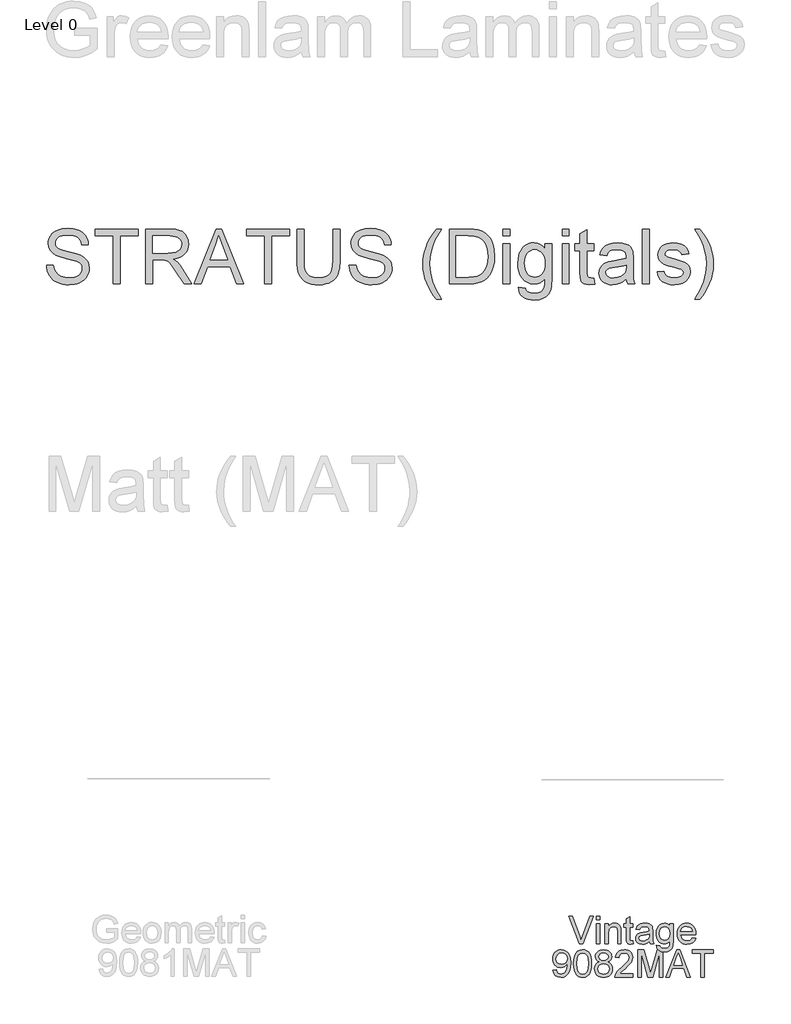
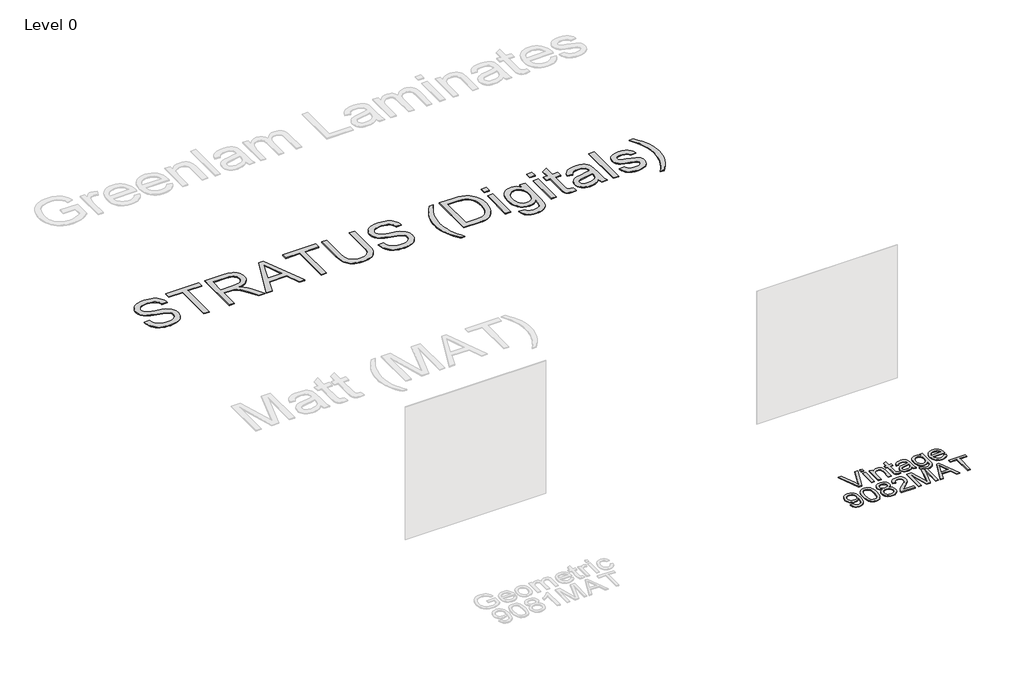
# One storey, part 2 of 3: 2 proxies.
"""IFC4 building model written with IfcOpenShell, lengths in millimetres."""

import ifcopenshell
import ifcopenshell.guid

model = None  # the IFC model being written
_history = None  # IfcOwnerHistory: only IFC2X3 demands one
_inside = {}  # id of a spatial element -> (the spatial element, [elements in it])
_under = {}  # id of a project, library or spatial element -> (it, [spatial elements below it])
_declared = {}  # id of a project -> (the project, [libraries it declares])
_typed = {}  # id of a type object -> (the type object, [elements of that type])
_made_of = {}  # id of a material, layer set ... -> (it, [elements and type objects made of it])


def new_model(schema):
    """Start an empty IFC model of exactly this schema.

    Asked for "IFC4X3", IfcOpenShell would pick the latest addendum, in which some entities
    have other attributes; the version numbers below select the first issue.
    IFC2X3 requires an IfcOwnerHistory on every rooted entity: one is made here for all.
    """
    global model, _history
    if schema == "IFC4X3":
        model = ifcopenshell.file(schema_version=(4, 3, 0, 0))
    else:
        model = ifcopenshell.file(schema=schema)
    _inside.clear()
    _under.clear()
    _declared.clear()
    _typed.clear()
    _made_of.clear()
    _history = None
    if model.schema == "IFC2X3":
        org = make("IfcOrganization", Name="unknown")
        user = make(
            "IfcPersonAndOrganization",
            ThePerson=make("IfcPerson", FamilyName="unknown"),
            TheOrganization=org,
        )
        app = make(
            "IfcApplication",
            ApplicationDeveloper=org,
            Version="unknown",
            ApplicationFullName="unknown",
            ApplicationIdentifier="unknown",
        )
        _history = make(
            "IfcOwnerHistory",
            OwningUser=user,
            OwningApplication=app,
            ChangeAction="ADDED",
            CreationDate=0,
        )
    return model


def make(cls, **values):
    """One entity of the class cls with the attributes given. An attribute that is None is left unset."""
    return model.create_entity(
        cls, **{name: value for name, value in values.items() if value is not None}
    )


def rooted(cls, **values):
    """An entity with a GlobalId (a new one), such as an element, a storey or a relation."""
    return make(cls, GlobalId=ifcopenshell.guid.new(), OwnerHistory=_history, **values)


def si_unit(unit_type, name, prefix=None):
    """IfcSIUnit, for example si_unit("LENGTHUNIT", "METRE", prefix="MILLI")."""
    return make("IfcSIUnit", UnitType=unit_type, Prefix=prefix, Name=name)


def assignment(units):
    """IfcUnitAssignment: the units of a project."""
    return None if units is None else make("IfcUnitAssignment", Units=units)


def point(xyz):
    """IfcCartesianPoint."""
    return None if xyz is None else make("IfcCartesianPoint", Coordinates=xyz)


def direction(xyz):
    """IfcDirection."""
    return None if xyz is None else make("IfcDirection", DirectionRatios=xyz)


def frame(location, z_axis=None, x_axis=None):
    """IfcAxis2Placement3D, a coordinate frame: its origin and axes. An axis left out is left unset."""
    return make(
        "IfcAxis2Placement3D",
        Location=point(location),
        Axis=direction(z_axis),
        RefDirection=direction(x_axis),
    )


def origin():
    """The frame at (0, 0, 0) with its axes left unset."""
    return frame((0.0, 0.0, 0.0))


def origin_with_axes():
    """The frame at (0, 0, 0) with the z axis (0, 0, 1) and the x axis (1, 0, 0) written out."""
    return frame((0.0, 0.0, 0.0), z_axis=(0.0, 0.0, 1.0), x_axis=(1.0, 0.0, 0.0))


def place(relative_to, where):
    """IfcLocalPlacement: puts the frame where relative to a parent placement (None: the world)."""
    return make(
        "IfcLocalPlacement", PlacementRelTo=relative_to, RelativePlacement=where
    )


def context(
    kind, dimensions, precision=None, world=None, true_north=None, identifier=None
):
    """IfcGeometricRepresentationContext, for example the 3D "Model" context."""
    return make(
        "IfcGeometricRepresentationContext",
        ContextIdentifier=identifier,
        ContextType=kind,
        CoordinateSpaceDimension=dimensions,
        Precision=precision,
        WorldCoordinateSystem=world,
        TrueNorth=true_north,
    )


def project(units=None, contexts=None):
    """IfcProject with its units and contexts."""
    return rooted(
        "IfcProject",
        Name="project",
        RepresentationContexts=contexts,
        UnitsInContext=assignment(units),
    )


def spatial(cls, under=None, at=None, **own):
    """A site, building, storey or space (cls), placed at a placement, below another one or the project."""
    s = rooted(cls, ObjectPlacement=at, **own)
    if under is not None:
        _under.setdefault(under.id(), (under, []))[1].append(s)
    return s


def polyline(points):
    """IfcPolyline through the points."""
    return make("IfcPolyline", Points=[point(p) for p in points])


def outline(outer, holes=None, kind="AREA"):
    """IfcArbitraryClosedProfileDef: a profile drawn as a closed curve; with holes, ...WithVoids."""
    if holes is None:
        return make("IfcArbitraryClosedProfileDef", ProfileType=kind, OuterCurve=outer)
    return make(
        "IfcArbitraryProfileDefWithVoids",
        ProfileType=kind,
        OuterCurve=outer,
        InnerCurves=holes,
    )


def extrude(swept, where, along, depth):
    """IfcExtrudedAreaSolid: the profile swept, set in the frame where, extruded along a direction by depth."""
    return make(
        "IfcExtrudedAreaSolid",
        SweptArea=swept,
        Position=where,
        ExtrudedDirection=direction(along),
        Depth=depth,
    )


def shape(context_of_items, identifier, shape_type, items):
    """IfcShapeRepresentation: the items that make up one representation, for example the "Body"."""
    return make(
        "IfcShapeRepresentation",
        ContextOfItems=context_of_items,
        RepresentationIdentifier=identifier,
        RepresentationType=shape_type,
        Items=items,
    )


def made_of(thing, what):
    """Note that an element or type object is made of a material, layer set ...; save() writes the relation."""
    if what is not None:
        _made_of.setdefault(what.id(), (what, []))[1].append(thing)
    return thing


def element(
    cls,
    number,
    at=None,
    inside=None,
    cuts=None,
    type_object=None,
    material=None,
    context=None,
    identifier="Body",
    shape_type=None,
    held_by="IfcProductDefinitionShape",
    body=None,
    shapes=None,
    **own,
):
    """One element of the class cls, such as IfcWall. Its Tag is "e" and its number.

    at: its placement. inside: the storey or other place that contains it. cuts: it is an
    opening in that element (IfcRelVoidsElement). A single representation is given by context,
    identifier, shape_type and body (its items); several are given by shapes. held_by: the class
    of the entity that holds the representations. save() writes the other relations.
    """
    e = rooted(cls, Tag="e%d" % number, ObjectPlacement=at, **own)
    if body is not None:
        shapes = [shape(context, identifier, shape_type, body)]
    if shapes is not None:
        e.Representation = make(held_by, Representations=shapes)
    if inside is not None:
        _inside.setdefault(inside.id(), (inside, []))[1].append(e)
    if cuts is not None:
        rooted(
            "IfcRelVoidsElement", RelatingBuildingElement=cuts, RelatedOpeningElement=e
        )
    if type_object is not None:
        _typed.setdefault(type_object.id(), (type_object, []))[1].append(e)
    return made_of(e, material)


def aggregate(whole, parts):
    """IfcRelAggregates: a whole, such as a stair, and the parts it consists of."""
    return rooted("IfcRelAggregates", RelatingObject=whole, RelatedObjects=parts)


def save(model, path):
    """Write the relations noted so far, then the file.

    IfcRelAggregates (storeys below a building ...), IfcRelContainedInSpatialStructure (elements
    in a storey), IfcRelDefinesByType, IfcRelAssociatesMaterial and IfcRelDeclares: one each for
    every whole, place, type object, material and project.
    """
    for whole, parts in _under.values():
        aggregate(whole, parts)
    for where, things in _inside.values():
        rooted(
            "IfcRelContainedInSpatialStructure",
            RelatedElements=things,
            RelatingStructure=where,
        )
    for kind, things in _typed.values():
        rooted("IfcRelDefinesByType", RelatedObjects=things, RelatingType=kind)
    for what, things in _made_of.values():
        rooted("IfcRelAssociatesMaterial", RelatedObjects=things, RelatingMaterial=what)
    for by, libraries in _declared.values():
        rooted("IfcRelDeclares", RelatingContext=by, RelatedDefinitions=libraries)
    model.write(path)


model = new_model("IFC4")

# Units and contexts
model_context = context("Model", 3, world=origin())
ifc_project = project(units=[si_unit("LENGTHUNIT", "METRE", prefix="MILLI")], contexts=[model_context])

# Site, building, storey
site = spatial("IfcSite", under=ifc_project)
building = spatial("IfcBuilding", under=site)
storey = spatial("IfcBuildingStorey", under=building, Name="Level 0", Elevation=0.0)

# Proxies
placement = place(None, origin())
element("IfcBuildingElementProxy", 1, Name="300mm Arial", ObjectType="300mm Arial", at=placement, inside=storey, context=model_context, shape_type="SweptSolid", body=[
    extrude(outline(polyline([(-5035.0018174, -7002.860494), (-5154.9313479, -6701.4915635), (-5114.6114812, -6701.4915635), (-5034.3396299, -6918.6155171), (-5018.0792457, -6967.5438224), (-5002.0395907, -6918.6155171), (-4921.5470101, -6701.4915635), (-4881.2271435, -6701.4915635), (-4996.0799024, -7002.860494), (-5035.0018174, -7002.860494)])), origin_with_axes(), (0.0, 0.0, 1.0), 10.0),
    extrude(outline(polyline([(-4850.9136671, -7002.860494), (-4850.9136671, -6781.5426857), (-4813.2425508, -6781.5426857), (-4813.2425508, -7002.860494), (-4850.9136671, -7002.860494)])), origin_with_axes(), (0.0, 0.0, 1.0), 10.0),
    extrude(outline(polyline([(-4850.9136671, -6739.1626798), (-4850.9136671, -6701.4915635), (-4813.2425508, -6701.4915635), (-4813.2425508, -6739.1626798), (-4850.9136671, -6739.1626798)])), origin_with_axes(), (0.0, 0.0, 1.0), 10.0),
    extrude(outline(polyline([(-4756.7358763, -7002.860494), (-4756.7358763, -6781.5426857), (-4719.06476, -6781.5426857), (-4719.06476, -6812.4447733), (-4705.977358, -6796.8649708), (-4690.2595998, -6785.7365404), (-4671.9114853, -6779.0594822), (-4650.9330145, -6776.8337961), (-4632.3641708, -6778.6272209), (-4615.3588255, -6784.0074951), (-4601.1769746, -6792.303234), (-4591.0786139, -6802.8430532), (-4579.7846366, -6830.5445674), (-4577.7980738, -6866.964885), (-4577.7980738, -7002.860494), (-4615.4691901, -7002.860494), (-4615.4691901, -6872.0416565), (-4619.8101977, -6838.7115477), (-4625.8158713, -6828.7879309), (-4635.1508769, -6821.0900002), (-4647.1162388, -6816.1511844), (-4661.0129811, -6814.5049125), (-4683.0767038, -6818.2021265), (-4701.8846708, -6829.2937687), (-4709.4009598, -6838.3482643), (-4714.7697377, -6850.7228949), (-4719.06476, -6885.4325611), (-4719.06476, -7002.860494), (-4756.7358763, -7002.860494)])), origin_with_axes(), (0.0, 0.0, 1.0), 10.0),
    extrude(outline(polyline([(-4445.9491668, -6971.4433716), (-4441.2402772, -7003.96414), (-4469.4200381, -7007.5693835), (-4487.5014381, -7006.005885), (-4500.9843132, -7001.3153896), (-4510.5124569, -6994.0865084), (-4516.7296626, -6984.9078526), (-4520.1509652, -6969.1441091), (-4521.2913994, -6942.1599648), (-4521.2913994, -6819.213802), (-4549.5447366, -6819.213802), (-4549.5447366, -6781.5426857), (-4521.2913994, -6781.5426857), (-4521.2913994, -6727.758338), (-4483.6202831, -6705.6118419), (-4483.6202831, -6781.5426857), (-4445.9491668, -6781.5426857), (-4445.9491668, -6819.213802), (-4483.6202831, -6819.213802), (-4483.6202831, -6941.0563188), (-4481.6337203, -6960.4804881), (-4475.1957854, -6967.3598814), (-4462.3567038, -6969.8982672), (-4445.9491668, -6971.4433716)])), origin_with_axes(), (0.0, 0.0, 1.0), 10.0),
    extrude(outline(polyline([(-4267.0113643, -6974.6071568), (-4285.0099909, -6990.0398064), (-4303.5420464, -7000.1381672), (-4323.0305951, -7005.7115794), (-4343.8987013, -7007.5693835), (-4375.380203, -7003.0996173), (-4398.602754, -6989.6903186), (-4412.9225607, -6969.3280501), (-4417.6958295, -6943.9993748), (-4415.8932078, -6928.3827841), (-4410.4853424, -6914.2009331), (-4402.1436182, -6902.0608273), (-4391.5394197, -6892.5694718), (-4365.1622806, -6880.2086368), (-4332.5679359, -6874.5432541), (-4294.050691, -6868.5835657), (-4267.2320935, -6861.5938078), (-4267.0113643, -6853.2060983), (-4269.6049324, -6836.3938912), (-4277.3856366, -6825.3942195), (-4294.786455, -6817.2272392), (-4319.0298784, -6814.5049125), (-4341.4706801, -6816.3167313), (-4357.1424531, -6821.7521878), (-4367.8294251, -6831.8045633), (-4375.3158237, -6847.4671392), (-4412.98694, -6842.7582497), (-4406.4478375, -6822.156858), (-4396.6897676, -6805.9700502), (-4382.8022223, -6793.590821), (-4363.8746936, -6784.4121652), (-4340.7257191, -6778.7283884), (-4314.1738361, -6776.8337961), (-4288.707205, -6778.5076592), (-4268.5196805, -6783.5292485), (-4253.2985629, -6791.0800264), (-4242.7311526, -6800.3414556), (-4235.7230006, -6811.7917827), (-4231.179658, -6825.9092543), (-4229.340248, -6858.8714811), (-4229.340248, -6905.7396473), (-4227.4272616, -6971.1858542), (-4219.9224689, -7002.860494), (-4257.5935852, -7002.860494), (-4267.0113643, -6974.6071568)]), holes=[polyline([(-4267.0113643, -6899.2649241), (-4327.7854699, -6910.8164188), (-4360.1958737, -6916.9232599), (-4374.8743653, -6926.8560738), (-4380.0247132, -6941.3506244), (-4377.219613, -6952.5526311), (-4368.8043124, -6961.7312869), (-4354.9627523, -6967.8565221), (-4335.8788738, -6969.8982672), (-4315.6453641, -6967.64499), (-4297.7662991, -6960.8851583), (-4283.2717485, -6950.9247533), (-4273.1917818, -6939.069756), (-4268.7220156, -6926.8560738), (-4267.2320935, -6909.933502), (-4267.0113643, -6899.2649241)])]), origin_with_axes(), (0.0, 0.0, 1.0), 10.0),
    extrude(outline(polyline([(-4186.9602422, -7021.6960521), (-4149.2891259, -7026.4049417), (-4145.1320593, -7038.1771655), (-4137.0754436, -7046.2705694), (-4121.2381237, -7052.5613515), (-4100.5079733, -7054.6582789), (-4078.3982654, -7052.28544), (-4061.9539402, -7045.1669234), (-4050.5495984, -7033.7625816), (-4043.5598404, -7018.532267), (-4040.9846665, -6974.6071568), (-4053.5202455, -6986.9679918), (-4067.5089583, -6995.7971597), (-4082.9508051, -7001.0946604), (-4099.8457857, -7002.860494), (-4120.5000605, -7000.8049533), (-4138.6849273, -6994.6383314), (-4154.4003863, -6984.3606281), (-4167.6464374, -6969.9718436), (-4178.1563662, -6952.708981), (-4185.6634581, -6933.8090435), (-4190.1677133, -6913.2720311), (-4191.6691317, -6891.0979438), (-4188.9743961, -6860.6832999), (-4180.8901892, -6832.7150712), (-4167.7016197, -6809.0142737), (-4149.6937961, -6791.4019232), (-4127.4829206, -6780.4758279), (-4101.6851957, -6776.8337961), (-4084.0682466, -6778.8939353), (-4068.0791754, -6785.0743528), (-4053.717982, -6795.3750487), (-4040.9846665, -6809.7960229), (-4040.9846665, -6781.5426857), (-4003.3135502, -6781.5426857), (-4003.3135502, -6972.620594), (-4005.8887241, -7016.7388422), (-4013.614246, -7045.7923228), (-4026.9223772, -7065.0601423), (-4046.245379, -7079.8214074), (-4071.1601871, -7089.2023982), (-4101.2437373, -7092.3293952), (-4136.2936944, -7087.9240083), (-4163.8940411, -7074.7078476), (-4174.2890067, -7064.7865301), (-4181.5983621, -7052.644125), (-4185.8221072, -7038.2806323), (-4186.9602422, -7021.6960521)]), holes=[polyline([(-4153.9980154, -6888.5227699), (-4149.9789046, -6923.0760863), (-4137.9215722, -6946.8320661), (-4119.7941869, -6960.6000498), (-4097.5649173, -6965.1893777), (-4075.5011947, -6960.6276409), (-4057.2818389, -6946.9424307), (-4045.0589596, -6923.4899535), (-4040.9846665, -6889.6264159), (-4045.1785212, -6856.9676917), (-4057.7600855, -6833.4508352), (-4076.2461557, -6819.2413931), (-4098.1535285, -6814.5049125), (-4119.6654282, -6819.1678167), (-4137.700843, -6833.1565296), (-4149.9237223, -6856.3238983), (-4153.9980154, -6888.5227699)])]), origin_with_axes(), (0.0, 0.0, 1.0), 10.0),
    extrude(outline(polyline([(-3791.8549793, -6936.9360404), (-3754.919627, -6941.64493), (-3768.2277582, -6969.4752029), (-3789.4637464, -6990.2789297), (-3818.149345, -7003.2467701), (-3853.8063073, -7007.5693835), (-3877.1806096, -7005.7046817), (-3898.0073291, -7000.1105761), (-3916.2864657, -6990.7870668), (-3932.0180195, -6977.7341537), (-3944.6685616, -6961.3151204), (-3953.7046631, -6941.8932503), (-3959.126324, -6919.4685435), (-3960.9335443, -6894.0409998), (-3959.1079299, -6867.7512327), (-3953.6310867, -6844.5792656), (-3944.5030147, -6824.5250983), (-3931.7237139, -6807.5887309), (-3916.0335468, -6794.133447), (-3898.172876, -6784.5225298), (-3878.1417013, -6778.7559796), (-3855.9400229, -6776.8337961), (-3834.4534151, -6778.751381), (-3815.022348, -6784.5041357), (-3797.6468215, -6794.0920602), (-3782.3268357, -6807.5151545), (-3769.8211471, -6824.4147337), (-3760.8885124, -6844.4321128), (-3755.5289316, -6867.5672917), (-3753.7424046, -6893.8202706), (-3753.9631338, -6903.9738137), (-3923.262428, -6903.9738137), (-3916.7417197, -6932.1719686), (-3901.5941785, -6952.902119), (-3879.7327909, -6965.6492302), (-3853.0705433, -6969.8982672), (-3833.0209746, -6967.9300985), (-3816.135191, -6962.0255925), (-3802.4131926, -6951.8168672), (-3791.8549793, -6936.9360404)]), holes=[polyline([(-3923.262428, -6866.3026974), (-3791.413521, -6866.3026974), (-3796.5086866, -6846.4002814), (-3806.4966828, -6832.1632482), (-3828.4592379, -6818.9194964), (-3856.0871757, -6814.5049125), (-3881.4802304, -6818.0273826), (-3902.4770953, -6828.5947929), (-3917.0728135, -6845.0667092), (-3923.262428, -6866.3026974)])]), origin_with_axes(), (0.0, 0.0, 1.0), 10.0),
    extrude(outline(polyline([(-5326.5115104, -7293.4427149), (-5288.8403941, -7288.7338254), (-5282.4024592, -7310.1169663), (-5271.9178223, -7324.6758963), (-5257.6440009, -7333.0360146), (-5239.8385124, -7335.8227207), (-5223.8632367, -7334.029296), (-5209.341095, -7328.6490218), (-5197.2745655, -7320.2705094), (-5188.6661268, -7309.4823699), (-5176.34208, -7276.7408723), (-5170.8974265, -7233.0364913), (-5171.1181557, -7225.6788514), (-5184.1687694, -7241.6081418), (-5201.2476911, -7254.2264942), (-5221.1225159, -7262.4486568), (-5242.5608391, -7265.1893777), (-5260.4559989, -7263.5155146), (-5276.9118204, -7258.4939254), (-5291.9283036, -7250.12461), (-5305.5054485, -7238.4075684), (-5316.7557398, -7223.9544045), (-5324.7916621, -7207.3767221), (-5329.6132155, -7188.6745212), (-5331.2204, -7167.8478018), (-5329.5350406, -7146.326705), (-5324.4789624, -7127.0129003), (-5316.0521654, -7109.9063875), (-5304.2546497, -7095.0071667), (-5289.9187482, -7082.9360387), (-5273.876794, -7074.3138045), (-5256.128787, -7069.1404639), (-5236.6747272, -7067.4160171), (-5208.5777398, -7071.3523544), (-5183.0007441, -7083.1613665), (-5161.6084061, -7102.254442), (-5146.0653918, -7128.0429699), (-5136.6016275, -7163.6907352), (-5133.4470394, -7212.3615232), (-5136.5924304, -7263.96617), (-5146.0286036, -7303.8537754), (-5161.6727854, -7333.8269609), (-5183.4422025, -7355.6883485), (-5210.3987557, -7369.0424649), (-5241.6043459, -7373.4938371), (-5273.8124146, -7368.2423216), (-5299.508972, -7352.4877751), (-5317.4800074, -7327.2234791), (-5326.5115104, -7293.4427149)]), holes=[polyline([(-5171.1181557, -7166.964885), (-5175.1832517, -7141.4338745), (-5187.3785398, -7121.788976), (-5206.3060685, -7109.262594), (-5230.5678861, -7105.0871334), (-5255.7310146, -7109.5844908), (-5275.8909479, -7123.0765629), (-5289.1346997, -7143.7239399), (-5293.5492837, -7169.6872117), (-5289.373823, -7192.964945), (-5276.8474411, -7211.4418182), (-5257.1841484, -7223.4991506), (-5231.5979557, -7227.5182614), (-5207.5292761, -7223.4991506), (-5188.151092, -7211.4418182), (-5175.3763898, -7192.2843633), (-5171.1181557, -7166.964885)])]), origin_with_axes(), (0.0, 0.0, 1.0), 10.0),
    extrude(outline(polyline([(-5100.4848126, -7220.5285035), (-5097.7165006, -7172.2899768), (-5089.4115645, -7133.8187172), (-5075.6527779, -7104.5261133), (-5056.5229142, -7083.8235541), (-5031.8840175, -7071.5179013), (-5001.5981323, -7067.4160171), (-4978.3847784, -7069.8440382), (-4957.5994457, -7077.1281017), (-4940.2170214, -7088.983099), (-4927.2123929, -7105.1239216), (-4917.3899436, -7125.4126136), (-4909.5540571, -7149.7112194), (-4904.4221033, -7180.5673217), (-4902.711452, -7220.5285035), (-4905.4521728, -7268.4911186), (-4913.6743354, -7306.8704077), (-4927.3503486, -7336.1906027), (-4946.4526212, -7356.9759355), (-4971.1467001, -7369.3643617), (-5001.5981323, -7373.4938371), (-5022.3466768, -7371.7004123), (-5040.7407766, -7366.3201381), (-5056.7804316, -7357.3530145), (-5070.4656418, -7344.7990414), (-5083.599029, -7322.1053209), (-5092.9800199, -7293.828991), (-5098.6086144, -7259.9700519), (-5100.4848126, -7220.5285035)]), holes=[polyline([(-5062.8136963, -7220.4549271), (-5058.3991123, -7279.7115194), (-5052.8808824, -7299.9795181), (-5045.1553605, -7314.0073184), (-5025.4368856, -7330.3688702), (-5001.5981323, -7335.8227207), (-4977.759379, -7330.3504761), (-4958.0409041, -7313.933742), (-4950.3153822, -7299.8829491), (-4944.7971522, -7279.6195489), (-4940.3825683, -7220.4549271), (-4944.6499994, -7162.5319069), (-4949.9842884, -7142.3305869), (-4957.4522929, -7127.9693935), (-4977.1339796, -7110.8076984), (-5002.0395907, -7105.0871334), (-5025.6208266, -7110.1271167), (-5044.5667493, -7125.2470667), (-5052.5497886, -7140.8820515), (-5058.2519595, -7161.9616898), (-5062.8136963, -7220.4549271)])]), origin_with_axes(), (0.0, 0.0, 1.0), 10.0),
    extrude(outline(polyline([(-4814.8612315, -7202.7965913), (-4835.0303619, -7192.8637774), (-4849.1846217, -7179.3992964), (-4857.54474, -7162.6790597), (-4860.3314461, -7142.9789789), (-4858.8139329, -7127.6153071), (-4854.2613932, -7113.5300252), (-4846.6738271, -7100.7231332), (-4836.0512345, -7089.1946312), (-4822.9040517, -7079.6664875), (-4807.7427149, -7072.8606706), (-4771.3775797, -7067.4160171), (-4734.7917153, -7072.9894293), (-4719.4648317, -7079.9561946), (-4706.1153138, -7089.709666), (-4695.2995831, -7101.4634957), (-4687.5740612, -7114.4313361), (-4682.9387481, -7128.613187), (-4681.3936437, -7144.0090485), (-4684.1435616, -7163.0745329), (-4692.3933153, -7179.509661), (-4706.2348754, -7192.8913686), (-4725.7602123, -7202.7965913), (-4702.5744496, -7214.7435591), (-4685.697863, -7232.3375155), (-4675.4063642, -7254.732332), (-4671.9758646, -7281.0818799), (-4673.6773188, -7299.8714528), (-4678.7816815, -7317.0975272), (-4687.2889527, -7332.7601031), (-4699.1991322, -7346.8591806), (-4713.8868209, -7358.5118428), (-4730.7266192, -7366.8351729), (-4749.7185272, -7371.829171), (-4770.8625449, -7373.4938371), (-4792.0065626, -7371.8222732), (-4810.9984706, -7366.8075818), (-4827.8382689, -7358.4497627), (-4842.5259576, -7346.748816), (-4854.4361372, -7332.5508703), (-4862.9434083, -7316.702054), (-4868.047771, -7299.2023674), (-4869.7492252, -7280.0518103), (-4866.1807699, -7252.6813898), (-4855.4754038, -7230.1670117), (-4838.18495, -7213.2812282), (-4814.8612315, -7202.7965913)]), holes=[polyline([(-4822.6603298, -7144.0826249), (-4819.3218007, -7160.52695), (-4809.3062134, -7173.6603373), (-4792.9078735, -7182.268776), (-4770.4210865, -7185.1382555), (-4748.4585314, -7182.2871701), (-4732.3085118, -7173.7339137), (-4722.3756979, -7161.0419848), (-4719.06476, -7145.774882), (-4722.4860625, -7129.9283651), (-4732.7499702, -7116.822569), (-4749.120719, -7108.0209923), (-4770.8625449, -7105.0871334), (-4792.7423266, -7107.9566129), (-4809.0854842, -7116.5650516), (-4819.2666184, -7129.1834041), (-4822.6603298, -7144.0826249)]), polyline([(-4832.0781089, -7278.7274351), (-4825.7873268, -7307.0911369), (-4817.0777206, -7319.2588339), (-4803.5304661, -7328.317928), (-4787.3068701, -7333.9465226), (-4770.5682393, -7335.8227207), (-4744.9268642, -7331.8771864), (-4725.6866359, -7320.0405832), (-4713.6568947, -7302.1155329), (-4709.6469809, -7279.9046575), (-4713.7856534, -7257.316703), (-4726.2016707, -7238.9961796), (-4745.8833574, -7226.8560738), (-4771.8190381, -7222.8093718), (-4797.1017282, -7226.8008915), (-4816.1488185, -7238.7754504), (-4828.0957863, -7256.7464859), (-4832.0781089, -7278.7274351)])]), origin_with_axes(), (0.0, 0.0, 1.0), 10.0),
    extrude(outline(polyline([(-4445.9491668, -7331.1138312), (-4445.9491668, -7368.7849475), (-4643.7225274, -7368.7849475), (-4639.6758254, -7342.8124787), (-4630.3868051, -7322.5145896), (-4616.7935653, -7302.8237058), (-4597.1302727, -7282.213117), (-4569.6310935, -7259.156113), (-4528.9801331, -7223.0484951), (-4504.5895568, -7196.3954446), (-4492.3942687, -7174.7639833), (-4488.3291726, -7153.7211331), (-4492.1643424, -7134.8579838), (-4503.6698518, -7119.1770138), (-4521.3557787, -7108.6096035), (-4543.7322011, -7105.0871334), (-4567.2306635, -7108.52683), (-4585.4868075, -7118.84592), (-4597.2682284, -7135.2350629), (-4601.3425215, -7156.8849183), (-4639.0136378, -7152.1760288), (-4629.8809673, -7115.7373171), (-4621.3346087, -7101.2013798), (-4610.1349012, -7089.1210548), (-4596.5393622, -7079.6251008), (-4580.8055092, -7072.8422765), (-4542.9228607, -7067.4160171), (-4522.7330369, -7068.9243332), (-4504.7643007, -7073.4492818), (-4489.0166521, -7080.9908627), (-4475.490091, -7091.549076), (-4464.6260758, -7104.3421723), (-4456.866065, -7118.5884026), (-4452.2100585, -7134.2877667), (-4450.6580563, -7151.4402648), (-4452.3319194, -7169.4572855), (-4457.3535086, -7187.1616065), (-4466.26545, -7205.1694302), (-4479.6103693, -7224.0969588), (-4500.8831457, -7246.6941104), (-4533.578658, -7275.7108027), (-4576.9151571, -7311.9471793), (-4593.9113052, -7331.1138312), (-4445.9491668, -7331.1138312)])), origin_with_axes(), (0.0, 0.0, 1.0), 10.0),
    extrude(outline(polyline([(-4394.1513818, -7368.7849475), (-4394.1513818, -7067.4160171), (-4329.3305743, -7067.4160171), (-4267.6735519, -7279.8310811), (-4255.2391405, -7324.1976497), (-4241.7746594, -7276.1522611), (-4181.1477066, -7067.4160171), (-4116.3268991, -7067.4160171), (-4116.3268991, -7368.7849475), (-4153.9980154, -7368.7849475), (-4153.9980154, -7105.0871334), (-4229.70813, -7368.7849475), (-4280.7701509, -7368.7849475), (-4356.4802655, -7105.0871334), (-4356.4802655, -7368.7849475), (-4394.1513818, -7368.7849475)])), origin_with_axes(), (0.0, 0.0, 1.0), 10.0),
    extrude(outline(polyline([(-4085.4983879, -7368.7849475), (-3965.2009755, -7067.4160171), (-3933.1216655, -7067.4160171), (-3812.8242531, -7368.7849475), (-3852.6290849, -7368.7849475), (-3887.1364161, -7274.6071568), (-4011.2598013, -7274.6071568), (-4045.693556, -7368.7849475), (-4085.4983879, -7368.7849475)]), holes=[polyline([(-3997.4274382, -7236.9360404), (-3900.8952027, -7236.9360404), (-3928.044894, -7162.8446066), (-3949.1613205, -7105.0871334), (-3967.9233022, -7156.3698835), (-3997.4274382, -7236.9360404)])]), origin_with_axes(), (0.0, 0.0, 1.0), 10.0),
    extrude(outline(polyline([(-3697.2357302, -7368.7849475), (-3697.2357302, -7105.0871334), (-3796.1224105, -7105.0871334), (-3796.1224105, -7067.4160171), (-3560.6779336, -7067.4160171), (-3560.6779336, -7105.0871334), (-3659.5646139, -7105.0871334), (-3659.5646139, -7368.7849475), (-3697.2357302, -7368.7849475)])), origin_with_axes(), (0.0, 0.0, 1.0), 10.0),
])
element("IfcBuildingElementProxy", 2, Name="600mm Arial", ObjectType="600mm Arial", at=placement, inside=storey, context=model_context, shape_type="SweptSolid", body=[
    extrude(outline(polyline([(-10905.7165225, 467.3190924), (-10830.3742899, 467.3190924), (-10821.729063, 425.5093036), (-10806.0940782, 391.9032833), (-10781.7035019, 365.2318387), (-10746.7915006, 344.2257768), (-10704.1171891, 330.5957488), (-10656.4396825, 326.0524062), (-10614.4643469, 329.4921029), (-10577.7129356, 339.8111928), (-10547.9328881, 356.1451534), (-10526.8716438, 377.6294619), (-10514.3452619, 402.2959497), (-10510.1698013, 428.1764481), (-10513.2967982, 453.3947588), (-10522.6777891, 475.1917671), (-10541.7340764, 493.7882019), (-10573.8869628, 509.4047926), (-10683.5893738, 538.1731646), (-10755.6022743, 557.2110579), (-10801.6794942, 575.3292461), (-10839.1850636, 600.6763156), (-10865.7645378, 631.3944622), (-10881.6018577, 666.8214983), (-10886.8809643, 706.2952364), (-10885.248488, 728.7314396), (-10880.3510589, 750.4226817), (-10872.1886771, 771.3689628), (-10860.7613427, 791.5702829), (-10846.1978142, 810.203506), (-10828.6268504, 826.445496), (-10808.0484513, 840.2962532), (-10784.4626169, 851.7557773), (-10731.4508214, 867.1516388), (-10672.7736431, 872.2835926), (-10609.2036344, 866.9125155), (-10553.5798767, 850.7992841), (-10529.2444827, 838.797134), (-10507.8889329, 824.2749923), (-10489.5132272, 807.2328588), (-10474.1173657, 787.6707338), (-10461.82091, 766.1588341), (-10452.7434218, 743.2673769), (-10446.884901, 718.9963623), (-10444.2453477, 693.3457902), (-10519.5875803, 693.3457902), (-10524.6275637, 717.3868786), (-10533.4199434, 738.30097), (-10545.9647194, 756.0880645), (-10562.2618918, 770.748162), (-10582.6149632, 782.2076861), (-10607.3274362, 790.3930605), (-10636.3993109, 795.3042852), (-10669.8305872, 796.94136), (-10704.3287213, 795.3226793), (-10733.8052661, 790.4666369), (-10758.2602218, 782.373233), (-10777.6935881, 771.0424676), (-10792.5008385, 757.4216367), (-10803.0774458, 742.4580365), (-10809.4234102, 726.1516671), (-10811.5387317, 708.5025284), (-10810.0396126, 693.318199), (-10805.5422552, 679.5502154), (-10798.0466595, 667.1985774), (-10787.5528256, 656.2632851), (-10771.034924, 645.9074069), (-10745.025667, 635.4411642), (-10664.5330864, 614.1775848), (-10581.4653319, 593.9808633), (-10531.2126514, 576.3593157), (-10488.2624284, 549.0256835), (-10471.6571549, 532.9584373), (-10458.2984399, 515.2909045), (-10448.0299337, 496.1150555), (-10440.6952865, 475.5228608), (-10434.8275686, 430.0894344), (-10436.5152273, 406.5219941), (-10441.5782033, 383.6443326), (-10450.0164965, 361.4564497), (-10461.8301071, 339.9583456), (-10476.8121013, 319.9823533), (-10494.7555457, 302.3608057), (-10515.66044, 287.0937029), (-10539.5267845, 274.1810449), (-10565.6602017, 263.9125387), (-10593.3663145, 256.5778914), (-10653.4966266, 250.7101736), (-10692.0368641, 252.2920662), (-10727.3121489, 257.0377439), (-10759.322481, 264.9472068), (-10788.0678604, 276.0204549), (-10813.7230311, 290.2758822), (-10836.4627369, 307.7318828), (-10856.2869779, 328.3884569), (-10873.1957541, 352.2456043), (-10886.816585, 378.5307728), (-10896.77699, 406.4714104), (-10903.0769692, 436.0675169), (-10905.7165225, 467.3190924)])), origin_with_axes(), (0.0, 0.0, 1.0), 10.0),
    extrude(outline(polyline([(-10171.1297545, 260.1279527), (-10171.1297545, 787.523581), (-10368.9031151, 787.523581), (-10368.9031151, 862.8658136), (-9898.0141613, 862.8658136), (-9898.0141613, 787.523581), (-10095.7875219, 787.523581), (-10095.7875219, 260.1279527), (-10171.1297545, 260.1279527)])), origin_with_axes(), (0.0, 0.0, 1.0), 10.0),
    extrude(outline(polyline([(-9813.2541496, 260.1279527), (-9813.2541496, 862.8658136), (-9553.529461, 862.8658136), (-9483.7238524, 858.8007175), (-9432.937743, 846.6054294), (-9413.3388297, 836.9117388), (-9395.8184497, 824.0910513), (-9380.3766029, 808.1433668), (-9367.0132894, 789.0686853), (-9356.2297485, 767.892478), (-9348.5272192, 745.6402158), (-9343.9057016, 722.3118988), (-9342.3651958, 697.9075269), (-9344.9173771, 666.950257), (-9352.5739211, 638.5313729), (-9365.3348278, 612.6508745), (-9383.2000972, 589.308762), (-9406.3996556, 569.2499962), (-9435.1634291, 553.2195382), (-9469.4914177, 541.2173881), (-9509.3836216, 533.2435459), (-9484.5515869, 517.0199499), (-9466.5621573, 501.0170831), (-9435.6968579, 464.4128246), (-9405.4937461, 423.4675585), (-9304.9883851, 260.1279527), (-9392.5442999, 260.1279527), (-9470.9767413, 385.0606782), (-9527.6305685, 467.7605507), (-9548.6918128, 491.8752155), (-9567.4354004, 506.8296186), (-9603.2671067, 521.1770164), (-9646.9714878, 523.8257668), (-9737.911917, 523.8257668), (-9737.911917, 260.1279527), (-9813.2541496, 260.1279527)]), holes=[polyline([(-9737.911917, 599.1679994), (-9569.2748104, 599.1679994), (-9520.8431457, 601.8351439), (-9483.2639999, 609.8365773), (-9454.9738745, 623.7057285), (-9434.409271, 643.9760264), (-9421.882889, 668.4953614), (-9417.7074284, 695.1116238), (-9419.6985897, 714.3794433), (-9425.6720736, 731.8630351), (-9435.6278801, 747.5623992), (-9449.5660092, 761.4775357), (-9467.8083576, 772.8726805), (-9490.6768221, 781.0120696), (-9518.1714027, 785.8957031), (-9550.2920994, 787.523581), (-9737.911917, 787.523581), (-9737.911917, 599.1679994)])]), origin_with_axes(), (0.0, 0.0, 1.0), 10.0),
    extrude(outline(polyline([(-9280.7081734, 260.1279527), (-9040.1133485, 862.8658136), (-8975.9547286, 862.8658136), (-8735.3599037, 260.1279527), (-8814.9695675, 260.1279527), (-8883.9842298, 448.4835342), (-9132.2310001, 448.4835342), (-9201.0985096, 260.1279527), (-9280.7081734, 260.1279527)]), holes=[polyline([(-9104.5662741, 523.8257668), (-8911.501803, 523.8257668), (-8965.8011855, 672.0086345), (-9008.0340386, 787.523581), (-9045.5580021, 684.9580807), (-9104.5662741, 523.8257668)])]), origin_with_axes(), (0.0, 0.0, 1.0), 10.0),
    extrude(outline(polyline([(-8504.182858, 260.1279527), (-8504.182858, 787.523581), (-8701.9562186, 787.523581), (-8701.9562186, 862.8658136), (-8231.0672647, 862.8658136), (-8231.0672647, 787.523581), (-8428.8406253, 787.523581), (-8428.8406253, 260.1279527), (-8504.182858, 260.1279527)])), origin_with_axes(), (0.0, 0.0, 1.0), 10.0),
    extrude(outline(polyline([(-7750.7605318, 862.8658136), (-7675.4182992, 862.8658136), (-7675.4182992, 515.1437517), (-7680.531859, 433.7130721), (-7686.9238086, 400.0196799), (-7695.8725382, 371.007586), (-7708.1505997, 345.5777431), (-7724.5305456, 322.6311037), (-7745.0123757, 302.1676677), (-7769.59609, 284.1874352), (-7798.3092797, 269.5411332), (-7831.179536, 259.079489), (-7868.2068588, 252.8025024), (-7909.3912482, 250.7101736), (-7949.5593635, 252.5311895), (-7985.8923091, 257.9942371), (-8018.3900848, 267.0993165), (-8047.0526907, 279.8464276), (-8071.8847254, 296.047031), (-8092.8907873, 315.512587), (-8110.0708765, 338.2430958), (-8123.4249929, 364.2385573), (-8133.4359817, 394.3910853), (-8140.586688, 429.5927937), (-8144.8771118, 469.8436825), (-8146.307253, 515.1437517), (-8146.307253, 862.8658136), (-8070.9650204, 862.8658136), (-8070.9650204, 517.7925021), (-8067.2494123, 450.0838209), (-8056.1025878, 402.9397432), (-8047.3377993, 385.5619175), (-8035.9058663, 370.2902161), (-8021.8067888, 357.1246392), (-8005.0405669, 346.0651867), (-7964.7942766, 331.0556013), (-7916.4545825, 326.0524062), (-7874.9299023, 328.5264126), (-7839.8247629, 335.9484319), (-7811.1391643, 348.318464), (-7788.8731065, 365.6365089), (-7772.1988551, 389.990297), (-7760.2886755, 423.4675585), (-7753.1425678, 466.0682936), (-7750.7605318, 517.7925021), (-7750.7605318, 862.8658136)])), origin_with_axes(), (0.0, 0.0, 1.0), 10.0),
    extrude(outline(polyline([(-7571.8227294, 467.3190924), (-7496.4804968, 467.3190924), (-7487.8352699, 425.5093036), (-7472.2002851, 391.9032833), (-7447.8097088, 365.2318387), (-7412.8977075, 344.2257768), (-7370.223396, 330.5957488), (-7322.5458894, 326.0524062), (-7280.5705538, 329.4921029), (-7243.8191425, 339.8111928), (-7214.039095, 356.1451534), (-7192.9778507, 377.6294619), (-7180.4514688, 402.2959497), (-7176.2760082, 428.1764481), (-7179.4030051, 453.3947588), (-7188.783996, 475.1917671), (-7207.8402834, 493.7882019), (-7239.9931697, 509.4047926), (-7349.6955807, 538.1731646), (-7421.7084812, 557.2110579), (-7467.7857011, 575.3292461), (-7505.2912706, 600.6763156), (-7531.8707447, 631.3944622), (-7547.7080646, 666.8214983), (-7552.9871712, 706.2952364), (-7551.3546949, 728.7314396), (-7546.4572658, 750.4226817), (-7538.294884, 771.3689628), (-7526.8675496, 791.5702829), (-7512.3040211, 810.203506), (-7494.7330573, 826.445496), (-7474.1546582, 840.2962532), (-7450.5688238, 851.7557773), (-7397.5570283, 867.1516388), (-7338.87985, 872.2835926), (-7275.3098413, 866.9125155), (-7219.6860836, 850.7992841), (-7195.3506896, 838.797134), (-7173.9951398, 824.2749923), (-7155.6194341, 807.2328588), (-7140.2235726, 787.6707338), (-7127.927117, 766.1588341), (-7118.8496287, 743.2673769), (-7112.9911079, 718.9963623), (-7110.3515546, 693.3457902), (-7185.6937872, 693.3457902), (-7190.7337706, 717.3868786), (-7199.5261503, 738.30097), (-7212.0709263, 756.0880645), (-7228.3680987, 770.748162), (-7248.7211701, 782.2076861), (-7273.4336431, 790.3930605), (-7302.5055178, 795.3042852), (-7335.9367941, 796.94136), (-7370.4349282, 795.3226793), (-7399.911473, 790.4666369), (-7424.3664287, 782.373233), (-7443.7997951, 771.0424676), (-7458.6070454, 757.4216367), (-7469.1836527, 742.4580365), (-7475.5296171, 726.1516671), (-7477.6449386, 708.5025284), (-7476.1458195, 693.318199), (-7471.6484621, 679.5502154), (-7464.1528664, 667.1985774), (-7453.6590325, 656.2632851), (-7437.1411309, 645.9074069), (-7411.1318739, 635.4411642), (-7330.6392933, 614.1775848), (-7247.5715388, 593.9808633), (-7197.3188583, 576.3593157), (-7154.3686354, 549.0256835), (-7137.7633618, 532.9584373), (-7124.4046468, 515.2909045), (-7114.1361407, 496.1150555), (-7106.8014934, 475.5228608), (-7100.9337756, 430.0894344), (-7102.6214342, 406.5219941), (-7107.6844102, 383.6443326), (-7116.1227034, 361.4564497), (-7127.936314, 339.9583456), (-7142.9183083, 319.9823533), (-7160.8617526, 302.3608057), (-7181.7666469, 287.0937029), (-7205.6329914, 274.1810449), (-7231.7664086, 263.9125387), (-7259.4725214, 256.5778914), (-7319.6028335, 250.7101736), (-7358.143071, 252.2920662), (-7393.4183558, 257.0377439), (-7425.4286879, 264.9472068), (-7454.1740673, 276.0204549), (-7479.829238, 290.2758822), (-7502.5689438, 307.7318828), (-7522.3931848, 328.3884569), (-7539.301961, 352.2456043), (-7552.9227919, 378.5307728), (-7562.8831969, 406.4714104), (-7569.1831761, 436.0675169), (-7571.8227294, 467.3190924)])), origin_with_axes(), (0.0, 0.0, 1.0), 10.0),
    extrude(outline(polyline([(-6611.2092636, 90.6079293), (-6641.6239075, 129.9621057), (-6669.5921362, 172.5352496), (-6695.1139496, 218.327361), (-6718.1893478, 267.3384398), (-6737.3100145, 318.4188548), (-6750.9676335, 370.4189748), (-6759.162205, 423.3387998), (-6761.8937288, 477.1783298), (-6759.8519837, 524.4971515), (-6753.7267485, 570.8042976), (-6743.5180231, 616.0997683), (-6729.2258076, 660.3835634), (-6707.5023758, 711.1696729), (-6680.5918079, 761.8454177), (-6648.4941038, 812.4107979), (-6611.2092636, 862.8658136), (-6554.7025891, 862.8658136), (-6599.0323695, 791.2391891), (-6625.1887794, 743.5248943), (-6649.2482619, 686.8710671), (-6667.5687852, 627.862795), (-6681.8058184, 552.4837742), (-6686.5514962, 476.7368714), (-6684.491357, 428.438564), (-6678.3109395, 380.1494536), (-6668.0102436, 331.8695403), (-6653.5892694, 283.598824), (-6635.0480169, 235.3373047), (-6612.386486, 187.0849825), (-6585.6046767, 138.8418574), (-6554.7025891, 90.6079293), (-6611.2092636, 90.6079293)])), origin_with_axes(), (0.0, 0.0, 1.0), 10.0),
    extrude(outline(polyline([(-6469.9425774, 260.1279527), (-6469.9425774, 862.8658136), (-6262.0156738, 862.8658136), (-6199.8804048, 860.6953098), (-6154.4469784, 854.1837985), (-6106.4015898, 837.4451677), (-6065.8609939, 811.0680286), (-6043.5213598, 789.5101437), (-6024.1799639, 765.1563556), (-6007.8368062, 738.0066644), (-5994.4918869, 708.06107), (-5984.1268116, 675.5954839), (-5976.7231865, 640.8858177), (-5970.8002864, 564.7342447), (-5974.8102001, 500.0421958), (-5986.8399414, 443.1124571), (-6005.1604647, 394.6440042), (-6028.0427248, 355.335813), (-6054.3830757, 324.3049667), (-6083.0778713, 300.6685485), (-6116.021704, 283.1389715), (-6155.109166, 270.4286485), (-6200.4138337, 262.7031266), (-6252.0092835, 260.1279527), (-6469.9425774, 260.1279527)]), holes=[polyline([(-6394.6003448, 335.4701853), (-6261.2799098, 335.4701853), (-6206.1343987, 338.192512), (-6164.3062158, 346.3594923), (-6132.7419406, 359.4928796), (-6108.3881526, 377.1144271), (-6082.2133486, 409.727166), (-6062.550056, 451.941625), (-6050.2444032, 503.941745), (-6046.142519, 565.9114671), (-6048.1520744, 609.6526363), (-6054.1807406, 648.0227284), (-6064.2285176, 681.0217434), (-6078.2954054, 708.6496812), (-6095.2409698, 731.5319413), (-6113.9247766, 750.293923), (-6134.3468259, 764.9356265), (-6156.5071175, 775.4570515), (-6199.8436166, 784.5069486), (-6263.3400489, 787.523581), (-6394.6003448, 787.523581), (-6394.6003448, 335.4701853)])]), origin_with_axes(), (0.0, 0.0, 1.0), 10.0),
    extrude(outline(polyline([(-5876.6224956, 787.523581), (-5876.6224956, 862.8658136), (-5801.280263, 862.8658136), (-5801.280263, 787.523581), (-5876.6224956, 787.523581)])), origin_with_axes(), (0.0, 0.0, 1.0), 10.0),
    extrude(outline(polyline([(-5876.6224956, 260.1279527), (-5876.6224956, 702.7635693), (-5801.280263, 702.7635693), (-5801.280263, 260.1279527), (-5876.6224956, 260.1279527)])), origin_with_axes(), (0.0, 0.0, 1.0), 10.0),
    extrude(outline(polyline([(-5707.1024722, 222.4568364), (-5631.7602396, 213.0390573), (-5623.4461065, 189.4946096), (-5607.3328751, 173.3078018), (-5575.6582354, 160.7262376), (-5534.1979345, 156.5323828), (-5489.9785187, 161.2780606), (-5472.1178478, 167.2101577), (-5457.0898683, 175.5150938), (-5434.2811846, 198.3237775), (-5420.3016688, 228.7844067), (-5416.2181786, 261.1948105), (-5415.1513209, 316.6346271), (-5440.2224788, 291.9129571), (-5468.1999046, 274.2546213), (-5499.0835981, 263.6596198), (-5532.8735593, 260.1279527), (-5574.1821088, 264.239034), (-5610.5518426, 276.5722779), (-5641.9827606, 297.1276843), (-5668.4748627, 325.9052534), (-5689.4947202, 360.4309787), (-5704.5089042, 398.2308537), (-5713.5174145, 439.3048784), (-5716.5202513, 483.6530529), (-5711.1307801, 544.4823408), (-5694.9623664, 600.4187982), (-5682.9786104, 625.6417075), (-5668.5852273, 647.8203933), (-5651.7822172, 666.9548556), (-5632.56958, 683.0450943), (-5611.2554169, 695.7922055), (-5588.1478291, 704.8972848), (-5563.2468165, 710.3603325), (-5536.5523793, 712.1813483), (-5501.3184812, 708.06107), (-5469.3403387, 695.700235), (-5440.617952, 675.0988432), (-5415.1513209, 646.2568948), (-5415.1513209, 702.7635693), (-5339.8090882, 702.7635693), (-5339.8090882, 320.6077527), (-5344.9594362, 232.3712561), (-5351.3973711, 199.5515836), (-5360.41048, 174.264295), (-5372.2148935, 153.8698369), (-5387.0267423, 135.728656), (-5404.8460265, 119.8407523), (-5425.6727459, 106.2061259), (-5449.2953685, 95.2616365), (-5475.5023622, 87.4441441), (-5504.2937268, 82.7536487), (-5535.6694625, 81.1901502), (-5572.5818222, 83.3928437), (-5605.7693767, 90.000924), (-5635.2321259, 101.0143912), (-5660.97007, 116.4332454), (-5681.7600013, 136.2758805), (-5696.3787121, 160.5606907), (-5704.8262024, 189.287676), (-5707.1024722, 222.4568364)]), holes=[polyline([(-5641.1780187, 488.8034009), (-5639.1684633, 451.5507503), (-5633.1397971, 419.6967681), (-5623.0920201, 393.2414541), (-5609.0251323, 372.1848084), (-5591.9232181, 356.1221608), (-5572.7703617, 344.6488411), (-5551.5665632, 337.7648492), (-5528.3118226, 335.4701853), (-5505.2870082, 337.7510537), (-5484.1843773, 344.5936588), (-5465.0039297, 355.9980006), (-5447.7456656, 371.9640792), (-5433.4856398, 392.8137913), (-5423.299907, 418.8690336), (-5417.1884674, 450.1298061), (-5415.1513209, 486.5961089), (-5417.2482482, 521.5402999), (-5423.5390303, 551.9135571), (-5434.0236672, 577.7158806), (-5448.7021588, 598.9472702), (-5466.3329034, 615.5249526), (-5485.6742993, 627.3661544), (-5506.7263465, 634.4708754), (-5529.489045, 636.8391157), (-5551.8700658, 634.5076636), (-5572.5128443, 627.5133072), (-5591.4173803, 615.8560464), (-5608.5836739, 599.5358814), (-5622.8436998, 578.6263885), (-5633.0294325, 553.2011441), (-5639.1408721, 523.2601482), (-5641.1780187, 488.8034009)])]), origin_with_axes(), (0.0, 0.0, 1.0), 10.0),
    extrude(outline(polyline([(-5226.7957393, 787.523581), (-5226.7957393, 862.8658136), (-5151.4535067, 862.8658136), (-5151.4535067, 787.523581), (-5226.7957393, 787.523581)])), origin_with_axes(), (0.0, 0.0, 1.0), 10.0),
    extrude(outline(polyline([(-5226.7957393, 260.1279527), (-5226.7957393, 702.7635693), (-5151.4535067, 702.7635693), (-5151.4535067, 260.1279527), (-5226.7957393, 260.1279527)])), origin_with_axes(), (0.0, 0.0, 1.0), 10.0),
    extrude(outline(polyline([(-4878.3379135, 322.9621974), (-4868.9201344, 257.9206607), (-4925.2796561, 250.7101736), (-4961.4424562, 253.8371706), (-4988.4082065, 263.2181614), (-5007.4644938, 277.6759238), (-5019.8989052, 296.0332354), (-5026.7415103, 327.5607224), (-5029.0223787, 381.5290111), (-5029.0223787, 627.4213367), (-5085.5290532, 627.4213367), (-5085.5290532, 702.7635693), (-5029.0223787, 702.7635693), (-5029.0223787, 810.3322647), (-4953.6801461, 854.6252569), (-4953.6801461, 702.7635693), (-4878.3379135, 702.7635693), (-4878.3379135, 627.4213367), (-4953.6801461, 627.4213367), (-4953.6801461, 383.7363031), (-4949.7070206, 344.8879644), (-4936.8311507, 331.1291777), (-4925.9602378, 327.3215991), (-4911.1529875, 326.0524062), (-4878.3379135, 322.9621974)])), origin_with_axes(), (0.0, 0.0, 1.0), 10.0),
    extrude(outline(polyline([(-4520.4623086, 316.6346271), (-4556.4595618, 285.7693277), (-4593.5236728, 265.5726062), (-4632.5007702, 254.4257817), (-4674.2369826, 250.7101736), (-4707.783222, 252.9450567), (-4737.199986, 259.6497061), (-4762.4872747, 270.8241217), (-4783.6450879, 286.4683035), (-4800.351529, 305.5889702), (-4812.2847013, 327.1928404), (-4819.4446046, 351.279914), (-4821.831239, 377.8501911), (-4818.2259955, 409.0833725), (-4807.4102648, 437.4470743), (-4790.7268163, 461.727286), (-4769.5184193, 480.709997), (-4744.5944141, 495.0573948), (-4716.7641412, 505.4316671), (-4651.5754517, 516.7624325), (-4574.5409619, 528.6818092), (-4520.903767, 542.661325), (-4520.4623086, 559.4367439), (-4525.6494447, 593.0611583), (-4532.1333649, 605.5139638), (-4541.2108531, 615.0605016), (-4556.9010202, 624.5886453), (-4576.0124899, 631.3944622), (-4624.4993368, 636.8391157), (-4669.3809402, 633.2154781), (-4700.7244862, 622.3445651), (-4722.0984301, 602.2398141), (-4737.0712273, 570.9146622), (-4812.41346, 580.3324413), (-4799.335255, 621.5352247), (-4779.8191152, 653.9088403), (-4752.0440245, 678.6672986), (-4714.1889672, 697.0246101), (-4667.8910182, 708.3921638), (-4614.7872521, 712.1813483), (-4563.8539899, 708.8336222), (-4523.4789409, 698.7904437), (-4493.0367058, 683.6888878), (-4471.9018852, 665.1660294), (-4457.8855812, 642.2653752), (-4448.7988959, 614.030432), (-4445.120076, 548.1059785), (-4445.120076, 454.3696461), (-4441.2941032, 323.4772322), (-4435.6287205, 291.1220108), (-4426.2845178, 260.1279527), (-4501.6267504, 260.1279527), (-4513.6932799, 286.3211507), (-4520.4623086, 316.6346271)]), holes=[polyline([(-4520.4623086, 467.3190924), (-4571.0828711, 454.7743163), (-4642.0105198, 444.2161031), (-4706.8313273, 432.0024208), (-4723.6987168, 423.6514995), (-4736.1883106, 412.1367931), (-4743.9138325, 398.3412183), (-4746.4890064, 383.1476919), (-4740.878806, 360.7436784), (-4724.0482047, 342.3863668), (-4696.3650846, 330.1358964), (-4658.1973276, 326.0524062), (-4617.7303081, 330.5589606), (-4581.9721782, 344.078624), (-4552.983077, 363.999434), (-4532.8231436, 387.7094286), (-4523.8836111, 412.1367931), (-4520.903767, 445.9819366), (-4520.4623086, 467.3190924)])]), origin_with_axes(), (0.0, 0.0, 1.0), 10.0),
    extrude(outline(polyline([(-4341.5245061, 260.1279527), (-4341.5245061, 862.8658136), (-4266.1822735, 862.8658136), (-4266.1822735, 260.1279527), (-4341.5245061, 260.1279527)])), origin_with_axes(), (0.0, 0.0, 1.0), 10.0),
    extrude(outline(polyline([(-4181.4222618, 391.9768597), (-4106.0800292, 401.3946388), (-4101.5274895, 384.2145496), (-4094.1974408, 369.168176), (-4084.089883, 356.255518), (-4071.2048161, 345.4765756), (-4055.5054519, 336.9785015), (-4036.9550023, 330.9084485), (-3991.3008467, 326.0524062), (-3946.1985141, 330.5037783), (-3928.668937, 336.0679935), (-3914.4870861, 343.8578948), (-3895.7251044, 363.2084877), (-3891.0346089, 374.0426125), (-3889.4711105, 385.6492894), (-3891.043806, 395.8212266), (-3895.7618926, 404.8527296), (-3914.6342389, 419.494433), (-3942.850788, 429.0593649), (-3992.1837635, 440.9787415), (-4060.9409084, 460.8627633), (-4105.6385708, 477.8405174), (-4134.3517605, 496.3633759), (-4155.1554874, 520.8827109), (-4167.7922339, 549.8350239), (-4172.0044828, 581.6568165), (-4168.6199684, 610.8482528), (-4158.4664253, 637.7956089), (-4142.4635585, 661.4320271), (-4121.531073, 680.6906496), (-4100.7273462, 692.8123613), (-4073.6328372, 702.9842985), (-4042.3076854, 709.8820859), (-4008.8120297, 712.1813483), (-3959.7733597, 708.4841343), (-3917.1358365, 697.3924921), (-3882.8492345, 679.9916738), (-3858.8633285, 657.3669311), (-3842.9708263, 627.844401), (-3832.964436, 589.7502203), (-3908.3066686, 580.3324413), (-3917.8164182, 604.0424359), (-3936.6335822, 621.9031067), (-3964.9421018, 633.1051135), (-4002.9259178, 636.8391157), (-4046.1888404, 633.2706604), (-4075.0307888, 622.5652943), (-4091.2543848, 607.1142505), (-4096.6622501, 589.308762), (-4094.41817, 577.7204791), (-4087.6859295, 567.382995), (-4076.171223, 558.149157), (-4059.579745, 550.7547289), (-3994.6853611, 534.7150739), (-3884.1000333, 499.2512495), (-3854.8902029, 482.2918896), (-3832.7437068, 459.0785357), (-3818.7825851, 429.5376115), (-3814.1288778, 393.5955405), (-3819.5919255, 356.439459), (-3835.9810684, 321.4906695), (-3862.6709071, 291.4898928), (-3899.0360423, 269.1778498), (-3942.9611526, 255.3270926), (-3992.3309163, 250.7101736), (-4032.8807092, 252.9358597), (-4068.2985483, 259.6129179), (-4098.5844336, 270.7413482), (-4123.738365, 286.3211507), (-4144.2845744, 306.278749), (-4160.7472937, 330.5405665), (-4173.1265228, 359.1066035), (-4181.4222618, 391.9768597)])), origin_with_axes(), (0.0, 0.0, 1.0), 10.0),
    extrude(outline(polyline([(-3710.533308, 90.6079293), (-3767.0399825, 90.6079293), (-3736.1378949, 138.8418574), (-3709.3560856, 187.0849825), (-3686.6945547, 235.3373047), (-3668.1533022, 283.598824), (-3653.7323279, 331.8695403), (-3643.4316321, 380.1494536), (-3637.2512146, 428.438564), (-3635.1910754, 476.7368714), (-3639.9367531, 551.9319512), (-3654.1737863, 626.5384199), (-3672.1632159, 685.6570565), (-3696.1123338, 742.3476719), (-3722.3791082, 790.5770015), (-3767.0399825, 862.8658136), (-3710.533308, 862.8658136), (-3673.2484678, 812.4107979), (-3641.1507637, 761.8454177), (-3614.2401958, 711.1696729), (-3592.516764, 660.3835634), (-3578.2245484, 616.0997683), (-3568.0158231, 570.8042976), (-3561.8905879, 524.4971515), (-3559.8488428, 477.1783298), (-3562.5941622, 423.3387998), (-3570.8301203, 370.4189748), (-3584.5567173, 318.4188548), (-3603.773953, 267.3384398), (-3626.918329, 218.327361), (-3652.4263469, 172.5352496), (-3680.2980065, 129.9621057), (-3710.533308, 90.6079293)])), origin_with_axes(), (0.0, 0.0, 1.0), 10.0),
])

save(model, "model.ifc")
